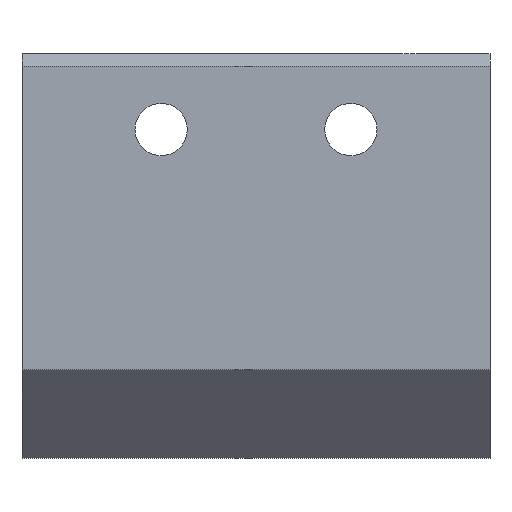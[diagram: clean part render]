
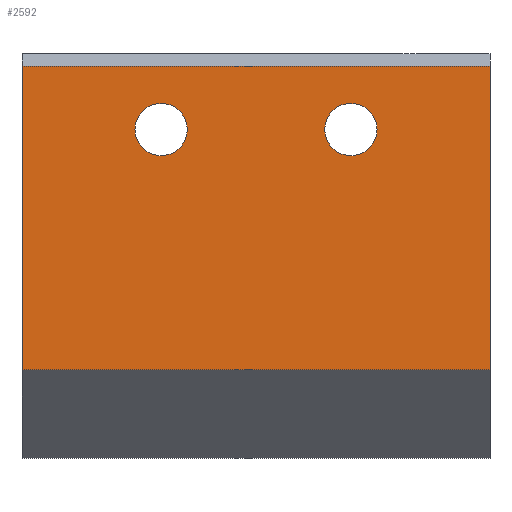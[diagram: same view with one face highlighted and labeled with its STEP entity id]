
A CAD part, front view. The second image highlights one B-rep face of the part: STEP entity #2592.
In plain terms, the highlighted planar face has unit normal (0, -1, 0).
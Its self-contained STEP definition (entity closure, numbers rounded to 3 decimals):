
#1714=CARTESIAN_POINT('',(37.0,-13.,18.0));
#1715=VERTEX_POINT('',#1714);
#1732=CARTESIAN_POINT('',(0.0,-13.,18.0));
#1733=VERTEX_POINT('',#1732);
#1740=CARTESIAN_POINT('',(0.0,-13.,18.0));
#1741=DIRECTION('',(1.0,0.0,0.0));
#1742=VECTOR('',#1741,37.0);
#1743=LINE('',#1740,#1742);
#1744=EDGE_CURVE('',#1733,#1715,#1743,.T.);
#1795=CARTESIAN_POINT('',(0.0,-13.0,-6.));
#1796=VERTEX_POINT('',#1795);
#1803=CARTESIAN_POINT('',(0.0,-13.0,-6.));
#1804=DIRECTION('',(0.0,0.0,1.0));
#1805=VECTOR('',#1804,24.);
#1806=LINE('',#1803,#1805);
#1807=EDGE_CURVE('',#1796,#1733,#1806,.T.);
#1892=CARTESIAN_POINT('',(37.0,-13.0,-6.));
#1893=VERTEX_POINT('',#1892);
#1900=CARTESIAN_POINT('',(37.0,-13.0,-6.));
#1901=DIRECTION('',(-1.0,0.0,0.0));
#1902=VECTOR('',#1901,37.0);
#1903=LINE('',#1900,#1902);
#1904=EDGE_CURVE('',#1893,#1796,#1903,.T.);
#2336=CARTESIAN_POINT('',(28.067,-13.,13.));
#2337=VERTEX_POINT('',#2336);
#2338=CARTESIAN_POINT('',(26.0,-13.,13.));
#2339=DIRECTION('',(0.0,1.0,0.0));
#2340=DIRECTION('',(-1.0,0.0,0.0));
#2341=AXIS2_PLACEMENT_3D('',#2338,#2339,#2340);
#2342=CIRCLE('',#2341,2.067);
#2343=EDGE_CURVE('',#2337,#2337,#2342,.T.);
#2446=CARTESIAN_POINT('',(13.067,-13.,13.));
#2447=VERTEX_POINT('',#2446);
#2448=CARTESIAN_POINT('',(11.0,-13.,13.));
#2449=DIRECTION('',(0.0,1.0,0.0));
#2450=DIRECTION('',(-1.0,0.0,0.0));
#2451=AXIS2_PLACEMENT_3D('',#2448,#2449,#2450);
#2452=CIRCLE('',#2451,2.067);
#2453=EDGE_CURVE('',#2447,#2447,#2452,.T.);
#2570=CARTESIAN_POINT('',(0.0,-13.,-13.));
#2571=DIRECTION('',(0.0,-1.0,0.0));
#2572=DIRECTION('',(0.0,0.0,-1.0));
#2573=AXIS2_PLACEMENT_3D('',#2570,#2571,#2572);
#2574=PLANE('',#2573);
#2575=ORIENTED_EDGE('',*,*,#1744,.F.);
#2576=ORIENTED_EDGE('',*,*,#1807,.F.);
#2577=ORIENTED_EDGE('',*,*,#1904,.F.);
#2578=CARTESIAN_POINT('',(37.0,-13.0,-6.));
#2579=DIRECTION('',(0.0,0.0,1.0));
#2580=VECTOR('',#2579,24.);
#2581=LINE('',#2578,#2580);
#2582=EDGE_CURVE('',#1893,#1715,#2581,.T.);
#2583=ORIENTED_EDGE('',*,*,#2582,.T.);
#2584=EDGE_LOOP('',(#2575,#2576,#2577,#2583));
#2585=FACE_OUTER_BOUND('',#2584,.T.);
#2586=ORIENTED_EDGE('',*,*,#2343,.T.);
#2587=EDGE_LOOP('',(#2586));
#2588=FACE_BOUND('',#2587,.T.);
#2589=ORIENTED_EDGE('',*,*,#2453,.T.);
#2590=EDGE_LOOP('',(#2589));
#2591=FACE_BOUND('',#2590,.T.);
#2592=ADVANCED_FACE('',(#2585,#2588,#2591),#2574,.T.);
